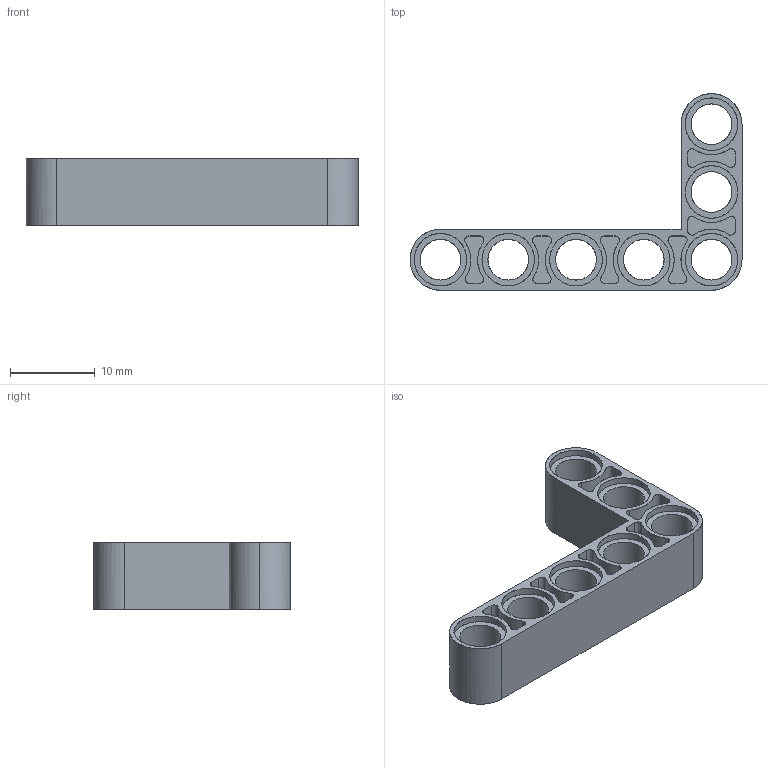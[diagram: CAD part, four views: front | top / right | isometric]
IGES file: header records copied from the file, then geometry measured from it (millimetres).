
Start section: C
Global section: file name: Blue_4158923_AVV.iges; native system: By Siemens PLM Incorporated; preprocessor: XPlus GENERIC/IGES 26.1.183; author: Author; organization: Title; date: 20250721.234939; units: millimetre
Bounding box: 39.2 x 23.2 x 8 mm (x, y, z)
Surface area: 2916.2 mm2 (no closed solid volume)
Topology: 0 solids, 0 shells, 177 faces, 978 edges, 978 vertices
Faces by surface type: bspline 177
